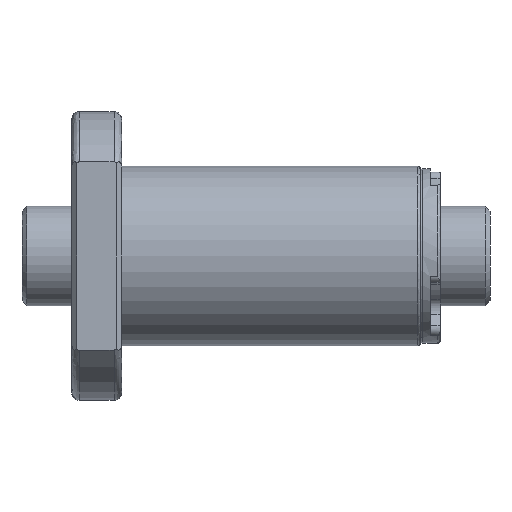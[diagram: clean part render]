
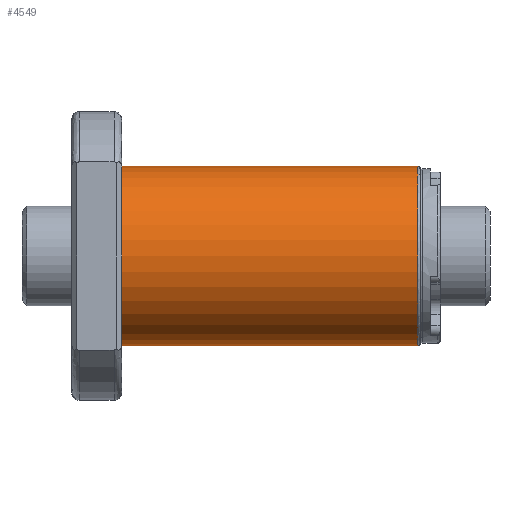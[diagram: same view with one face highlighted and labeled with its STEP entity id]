
A CAD part, front view. The second image highlights one B-rep face of the part: STEP entity #4549.
In plain terms, the highlighted cylindrical face has radius 18 mm (diameter 36 mm), a partial arc.
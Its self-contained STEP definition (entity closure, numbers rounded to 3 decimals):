
#110 = CARTESIAN_POINT ( 'NONE',  ( 10., 0., 18. ) ) ;
#407 = CYLINDRICAL_SURFACE ( 'NONE', #6352, 18. ) ;
#424 = CARTESIAN_POINT ( 'NONE',  ( 69.5, 0., 0. ) ) ;
#435 = VERTEX_POINT ( 'NONE', #2001 ) ;
#490 = DIRECTION ( 'NONE',  ( -1., 0., 0. ) ) ;
#532 = FACE_OUTER_BOUND ( 'NONE', #4596, .T. ) ;
#647 = EDGE_CURVE ( 'NONE', #6205, #435, #7334, .T. ) ;
#717 = CARTESIAN_POINT ( 'NONE',  ( 69.5, 0., 18. ) ) ;
#1133 = ORIENTED_EDGE ( 'NONE', *, *, #3027, .T. ) ;
#2001 = CARTESIAN_POINT ( 'NONE',  ( 10., 0., -18. ) ) ;
#2440 = EDGE_CURVE ( 'NONE', #8897, #6205, #5270, .T. ) ;
#2586 = DIRECTION ( 'NONE',  ( 0., 0., 1. ) ) ;
#2845 = CIRCLE ( 'NONE', #3407, 18. ) ;
#3027 = EDGE_CURVE ( 'NONE', #6387, #8897, #2845, .T. ) ;
#3083 = LINE ( 'NONE', #5646, #4250 ) ;
#3407 = AXIS2_PLACEMENT_3D ( 'NONE', #424, #490, #2586 ) ;
#3633 = DIRECTION ( 'NONE',  ( -1., 0., 0. ) ) ;
#4250 = VECTOR ( 'NONE', #3633, 1000. ) ;
#4337 = CARTESIAN_POINT ( 'NONE',  ( 10., 0., 0. ) ) ;
#4549 = ADVANCED_FACE ( 'NONE', ( #532 ), #407, .T. ) ;
#4596 = EDGE_LOOP ( 'NONE', ( #6699, #1133, #6186, #8020 ) ) ;
#5047 = DIRECTION ( 'NONE',  ( 0., 0., 1. ) ) ;
#5079 = VECTOR ( 'NONE', #7204, 1000. ) ;
#5270 = LINE ( 'NONE', #5723, #5079 ) ;
#5646 = CARTESIAN_POINT ( 'NONE',  ( 0., 0., -18. ) ) ;
#5719 = DIRECTION ( 'NONE',  ( 1., 0., 0. ) ) ;
#5723 = CARTESIAN_POINT ( 'NONE',  ( 0., 0., 18. ) ) ;
#5821 = CARTESIAN_POINT ( 'NONE',  ( 69.5, 0., -18. ) ) ;
#6186 = ORIENTED_EDGE ( 'NONE', *, *, #2440, .T. ) ;
#6205 = VERTEX_POINT ( 'NONE', #110 ) ;
#6352 = AXIS2_PLACEMENT_3D ( 'NONE', #8219, #6852, #7658 ) ;
#6387 = VERTEX_POINT ( 'NONE', #5821 ) ;
#6699 = ORIENTED_EDGE ( 'NONE', *, *, #7619, .F. ) ;
#6852 = DIRECTION ( 'NONE',  ( -1., 0., 0. ) ) ;
#7204 = DIRECTION ( 'NONE',  ( -1., 0., 0. ) ) ;
#7334 = CIRCLE ( 'NONE', #8606, 18. ) ;
#7619 = EDGE_CURVE ( 'NONE', #6387, #435, #3083, .T. ) ;
#7658 = DIRECTION ( 'NONE',  ( 0., 0., 1. ) ) ;
#8020 = ORIENTED_EDGE ( 'NONE', *, *, #647, .T. ) ;
#8219 = CARTESIAN_POINT ( 'NONE',  ( 0., 0., 0. ) ) ;
#8606 = AXIS2_PLACEMENT_3D ( 'NONE', #4337, #5719, #5047 ) ;
#8897 = VERTEX_POINT ( 'NONE', #717 ) ;
